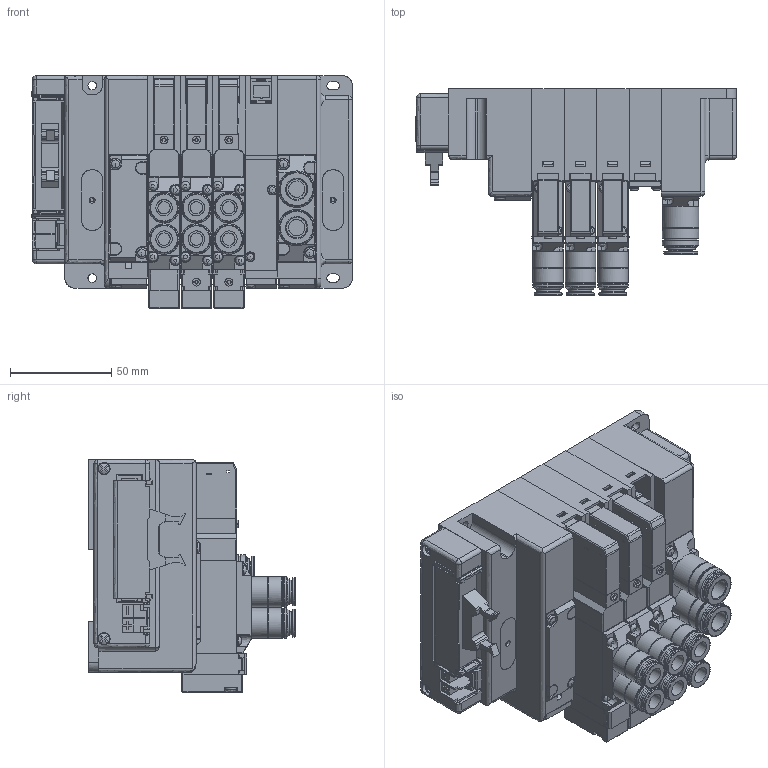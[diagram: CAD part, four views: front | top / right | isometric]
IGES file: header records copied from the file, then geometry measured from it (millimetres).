
Start section: ------------------------------------------------------------------------
Global section: file name: D:\ICADMX\tmp\trans3d_spg\CVICAD02.5220.F15M4XP-JR-F10x_16753.igs; native system: spGate; preprocessor: ver12.6.6; author: Unknown; organization: Unknown; date: 210712.184842; units: millimetre
Bounding box: 158.4 x 102.1 x 115 mm (x, y, z)
Surface area: 217070 mm2 (no closed solid volume)
Topology: 0 solids, 0 shells, 3253 faces, 17592 edges, 17466 vertices
Faces by surface type: bspline 3253
